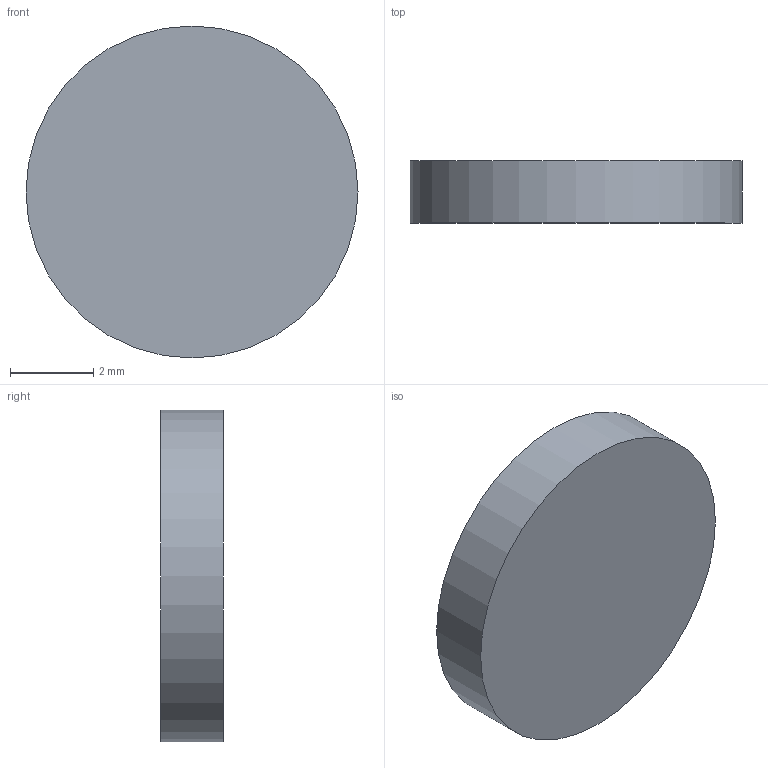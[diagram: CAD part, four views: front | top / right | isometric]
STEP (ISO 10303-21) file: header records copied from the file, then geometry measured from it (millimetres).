
FILE_DESCRIPTION(('Open CASCADE Model'),'2;1');
FILE_NAME('play_pad_silicone','2026-09-08T13:43:18',('Author'),( 'Open CASCADE'),'Open CASCADE STEP processor 7.8','build123d', 'Unknown');
FILE_SCHEMA(('AUTOMOTIVE_DESIGN { 1 0 10303 214 1 1 1 1 }'));
Length unit declared in the file: millimetre
Products named in the file (3): =>[0:1:1:2]; play_pad_silicone; SOLID
Assembly tree (2 placements, depth 3):
  =>[0:1:1:2]
    play_pad_silicone
      SOLID
Bounding box: 8 x 1.5 x 8 mm (x, y, z)
Volume: 75.4 mm3; surface area: 138.2 mm2
Topology: 1 solids, 1 shells, 3 faces, 3 edges, 2 vertices
Faces by surface type: plane 2, cylinder 1
Full cylindrical faces by diameter (mm): 8 x1
Entity records: 144 total; most frequent: DIRECTION 23, CARTESIAN_POINT 17, AXIS2_PLACEMENT_3D 8, ORIENTED_EDGE 6, PCURVE 6, DEFINITIONAL_REPRESENTATION 6, PRODUCT_DEFINITION_SHAPE 5, LINE 5
